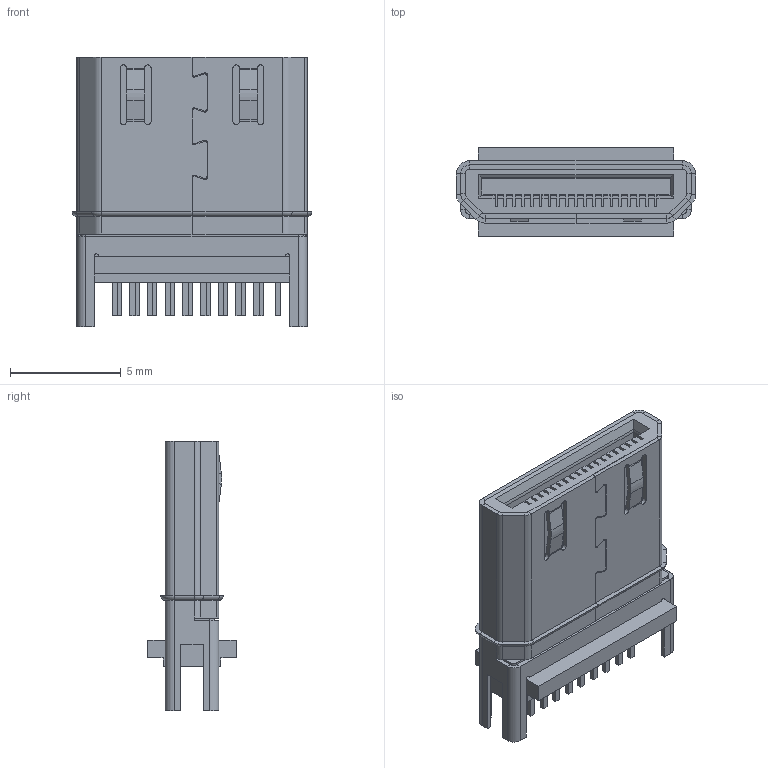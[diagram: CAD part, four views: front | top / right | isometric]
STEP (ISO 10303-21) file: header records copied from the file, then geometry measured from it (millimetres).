
FILE_DESCRIPTION (( 'STEP AP214' ), '1' );
FILE_NAME ('60S019P-301N-B1-FEC.STEP', '2023-10-30T15:03:55', ( '' ), ( '' ), 'SwSTEP 2.0', 'SolidWorks 2021', '' );
FILE_SCHEMA (( 'AUTOMOTIVE_DESIGN' ));
Length unit declared in the file: millimetre
Products named in the file (2): 60S019P-301N-B1-FEC; 60S019P-301N-B1
Assembly tree (1 placements, depth 2):
  60S019P-301N-B1-FEC
    60S019P-301N-B1
Bounding box: 10.82 x 4 x 12.2 mm (x, y, z)
Volume: 237.4 mm3; surface area: 934.9 mm2
Topology: 21 solids, 21 shells, 494 faces, 1215 edges, 758 vertices
Faces by surface type: plane 384, cylinder 104, torus 6
Entity records: 14579 total; most frequent: CARTESIAN_POINT 2543, ORIENTED_EDGE 2430, DIRECTION 2405, EDGE_CURVE 1215, LINE 1005, VECTOR 1005, VERTEX_POINT 758, AXIS2_PLACEMENT_3D 700
